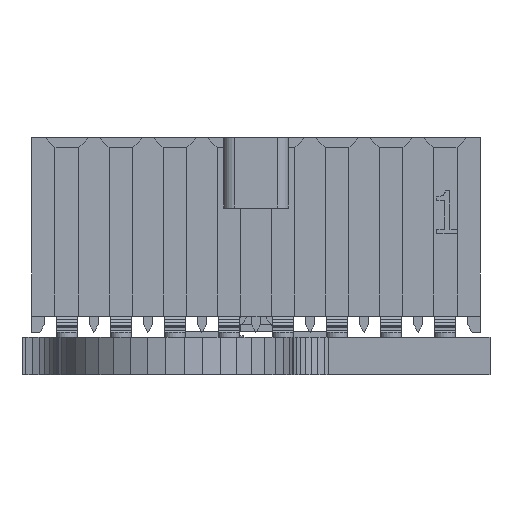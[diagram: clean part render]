
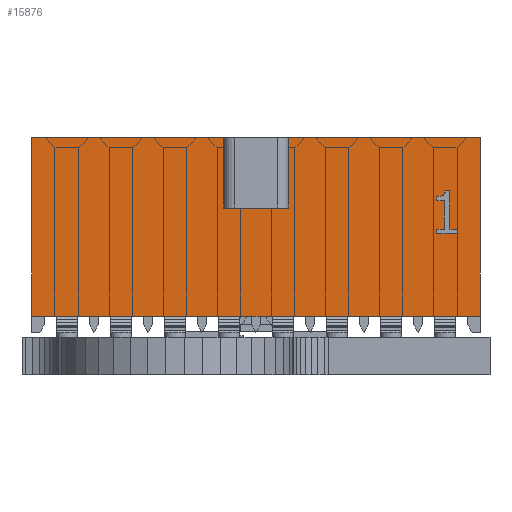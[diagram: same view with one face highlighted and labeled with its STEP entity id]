
A CAD part, left-side view. The second image highlights one B-rep face of the part: STEP entity #15876.
In plain terms, the highlighted planar face has unit normal (-1, 0, 0).
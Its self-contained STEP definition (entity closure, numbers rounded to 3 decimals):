
#22=B_SPLINE_CURVE_WITH_KNOTS('',2,(#24048,#24049,#24050,#24051),
 .UNSPECIFIED.,.F.,.F.,(3,1,3),(0.,1.,2.),.UNSPECIFIED.);
#692=FACE_BOUND('',#2680,.T.);
#1023=PLANE('',#16958);
#1753=FACE_OUTER_BOUND('',#2679,.T.);
#2679=EDGE_LOOP('',(#13231,#13232,#13233,#13234,#13235,#13236,#13237,#13238));
#2680=EDGE_LOOP('',(#13239,#13240,#13241,#13242,#13243,#13244,#13245,#13246,
#13247,#13248,#13249));
#4009=LINE('',#24036,#5878);
#4013=LINE('',#24055,#5882);
#4015=LINE('',#24059,#5884);
#4017=LINE('',#24063,#5886);
#4019=LINE('',#24067,#5888);
#4020=LINE('',#24070,#5889);
#4022=LINE('',#24074,#5891);
#4024=LINE('',#24078,#5893);
#4026=LINE('',#24082,#5895);
#4028=LINE('',#24085,#5897);
#4033=LINE('',#24097,#5902);
#4220=LINE('',#24471,#6089);
#4221=LINE('',#24473,#6090);
#4222=LINE('',#24475,#6091);
#4223=LINE('',#24477,#6092);
#4224=LINE('',#24479,#6093);
#4225=LINE('',#24481,#6094);
#4226=LINE('',#24482,#6095);
#5878=VECTOR('',#19560,1.);
#5882=VECTOR('',#19566,1.);
#5884=VECTOR('',#19570,1.);
#5886=VECTOR('',#19574,1.);
#5888=VECTOR('',#19578,1.);
#5889=VECTOR('',#19581,1.);
#5891=VECTOR('',#19585,1.);
#5893=VECTOR('',#19589,1.);
#5895=VECTOR('',#19593,1.);
#5897=VECTOR('',#19597,1.);
#5902=VECTOR('',#19604,1.);
#6089=VECTOR('',#19795,1.);
#6090=VECTOR('',#19796,1.);
#6091=VECTOR('',#19797,1.);
#6092=VECTOR('',#19798,1.);
#6093=VECTOR('',#19799,1.);
#6094=VECTOR('',#19800,1.);
#6095=VECTOR('',#19801,1.);
#7930=VERTEX_POINT('',#24033);
#7931=VERTEX_POINT('',#24035);
#7932=VERTEX_POINT('',#24046);
#7933=VERTEX_POINT('',#24053);
#7934=VERTEX_POINT('',#24057);
#7935=VERTEX_POINT('',#24061);
#7936=VERTEX_POINT('',#24065);
#7937=VERTEX_POINT('',#24069);
#7938=VERTEX_POINT('',#24073);
#7939=VERTEX_POINT('',#24077);
#7940=VERTEX_POINT('',#24081);
#7945=VERTEX_POINT('',#24094);
#7946=VERTEX_POINT('',#24096);
#8131=VERTEX_POINT('',#24470);
#8132=VERTEX_POINT('',#24472);
#8133=VERTEX_POINT('',#24474);
#8134=VERTEX_POINT('',#24476);
#8135=VERTEX_POINT('',#24478);
#8136=VERTEX_POINT('',#24480);
#9744=EDGE_CURVE('',#7931,#7930,#4009,.T.);
#9747=EDGE_CURVE('',#7930,#7932,#22,.T.);
#9749=EDGE_CURVE('',#7932,#7933,#4013,.T.);
#9751=EDGE_CURVE('',#7933,#7934,#4015,.T.);
#9753=EDGE_CURVE('',#7934,#7935,#4017,.T.);
#9755=EDGE_CURVE('',#7935,#7936,#4019,.T.);
#9756=EDGE_CURVE('',#7937,#7931,#4020,.T.);
#9758=EDGE_CURVE('',#7938,#7937,#4022,.T.);
#9760=EDGE_CURVE('',#7939,#7938,#4024,.T.);
#9762=EDGE_CURVE('',#7940,#7939,#4026,.T.);
#9764=EDGE_CURVE('',#7936,#7940,#4028,.T.);
#9769=EDGE_CURVE('',#7946,#7945,#4033,.T.);
#9956=EDGE_CURVE('',#8131,#7945,#4220,.T.);
#9957=EDGE_CURVE('',#8132,#8131,#4221,.T.);
#9958=EDGE_CURVE('',#8133,#8132,#4222,.T.);
#9959=EDGE_CURVE('',#8134,#8133,#4223,.T.);
#9960=EDGE_CURVE('',#8135,#8134,#4224,.T.);
#9961=EDGE_CURVE('',#8136,#8135,#4225,.T.);
#9962=EDGE_CURVE('',#8136,#7946,#4226,.T.);
#13231=ORIENTED_EDGE('',*,*,#9769,.T.);
#13232=ORIENTED_EDGE('',*,*,#9956,.F.);
#13233=ORIENTED_EDGE('',*,*,#9957,.F.);
#13234=ORIENTED_EDGE('',*,*,#9958,.F.);
#13235=ORIENTED_EDGE('',*,*,#9959,.F.);
#13236=ORIENTED_EDGE('',*,*,#9960,.F.);
#13237=ORIENTED_EDGE('',*,*,#9961,.F.);
#13238=ORIENTED_EDGE('',*,*,#9962,.T.);
#13239=ORIENTED_EDGE('',*,*,#9744,.T.);
#13240=ORIENTED_EDGE('',*,*,#9747,.T.);
#13241=ORIENTED_EDGE('',*,*,#9749,.T.);
#13242=ORIENTED_EDGE('',*,*,#9751,.T.);
#13243=ORIENTED_EDGE('',*,*,#9753,.T.);
#13244=ORIENTED_EDGE('',*,*,#9755,.T.);
#13245=ORIENTED_EDGE('',*,*,#9764,.T.);
#13246=ORIENTED_EDGE('',*,*,#9762,.T.);
#13247=ORIENTED_EDGE('',*,*,#9760,.T.);
#13248=ORIENTED_EDGE('',*,*,#9758,.T.);
#13249=ORIENTED_EDGE('',*,*,#9756,.T.);
#15876=ADVANCED_FACE('',(#1753,#692),#1023,.T.);
#16958=AXIS2_PLACEMENT_3D('',#24469,#19793,#19794);
#19560=DIRECTION('',(0.,0.,1.));
#19566=DIRECTION('',(0.,-1.,0.));
#19570=DIRECTION('',(0.,0.,-1.));
#19574=DIRECTION('',(0.,-1.,0.));
#19578=DIRECTION('',(0.,0.,-1.));
#19581=DIRECTION('',(0.,1.,0.));
#19585=DIRECTION('',(0.,0.,1.));
#19589=DIRECTION('',(0.,-1.,0.));
#19593=DIRECTION('',(0.,0.,1.));
#19597=DIRECTION('',(0.,1.,0.));
#19604=DIRECTION('',(0.,-1.,0.));
#19793=DIRECTION('center_axis',(-1.,0.,
0.));
#19794=DIRECTION('ref_axis',(0.,1.,0.));
#19795=DIRECTION('',(0.,0.,-1.));
#19796=DIRECTION('',(0.,-1.,0.));
#19797=DIRECTION('',(0.,0.,1.));
#19798=DIRECTION('',(0.,-1.,0.));
#19799=DIRECTION('',(0.,0.,-1.));
#19800=DIRECTION('',(0.,-1.,0.));
#19801=DIRECTION('',(0.,0.,-1.));
#24033=CARTESIAN_POINT('',(8.226,1.252,3.311));
#24035=CARTESIAN_POINT('',(8.226,1.252,3.219));
#24036=CARTESIAN_POINT('',(8.226,1.252,4.005));
#24046=CARTESIAN_POINT('',(8.226,1.045,3.45));
#24048=CARTESIAN_POINT('Ctrl Pts',(8.226,1.252,3.311));
#24049=CARTESIAN_POINT('Ctrl Pts',(8.226,1.149,3.311));
#24050=CARTESIAN_POINT('Ctrl Pts',(8.226,1.052,3.369));
#24051=CARTESIAN_POINT('Ctrl Pts',(8.226,1.045,3.45));
#24053=CARTESIAN_POINT('',(8.226,0.941,3.45));
#24055=CARTESIAN_POINT('',(8.226,5.856,3.45));
#24057=CARTESIAN_POINT('',(8.226,0.941,2.549));
#24059=CARTESIAN_POINT('',(8.226,0.941,3.624));
#24061=CARTESIAN_POINT('',(8.226,0.764,2.549));
#24063=CARTESIAN_POINT('',(8.226,5.767,2.549));
#24065=CARTESIAN_POINT('',(8.226,0.764,2.447));
#24067=CARTESIAN_POINT('',(8.226,0.764,3.573));
#24069=CARTESIAN_POINT('',(8.226,1.07,3.219));
#24070=CARTESIAN_POINT('',(8.226,6.011,3.219));
#24073=CARTESIAN_POINT('',(8.226,1.07,2.549));
#24074=CARTESIAN_POINT('',(8.226,1.07,3.959));
#24077=CARTESIAN_POINT('',(8.226,1.252,2.549));
#24078=CARTESIAN_POINT('',(8.226,5.92,2.549));
#24081=CARTESIAN_POINT('',(8.226,1.252,2.447));
#24082=CARTESIAN_POINT('',(8.226,1.252,3.624));
#24085=CARTESIAN_POINT('',(8.226,6.011,2.447));
#24094=CARTESIAN_POINT('',(8.226,0.23,0.508));
#24096=CARTESIAN_POINT('',(8.226,10.771,0.508));
#24097=CARTESIAN_POINT('',(8.226,10.771,0.508));
#24469=CARTESIAN_POINT('Origin',(8.226,10.771,4.699));
#24470=CARTESIAN_POINT('',(8.226,0.23,4.699));
#24471=CARTESIAN_POINT('',(8.226,0.23,4.699));
#24472=CARTESIAN_POINT('',(8.226,4.738,4.699));
#24473=CARTESIAN_POINT('',(8.226,10.771,4.699));
#24474=CARTESIAN_POINT('',(8.226,4.738,3.048));
#24475=CARTESIAN_POINT('',(8.226,4.738,4.699));
#24476=CARTESIAN_POINT('',(8.226,6.262,3.048));
#24477=CARTESIAN_POINT('',(8.226,6.262,3.048));
#24478=CARTESIAN_POINT('',(8.226,6.262,4.699));
#24479=CARTESIAN_POINT('',(8.226,6.262,4.699));
#24480=CARTESIAN_POINT('',(8.226,10.771,4.699));
#24481=CARTESIAN_POINT('',(8.226,10.771,4.699));
#24482=CARTESIAN_POINT('',(8.226,10.771,4.699));
